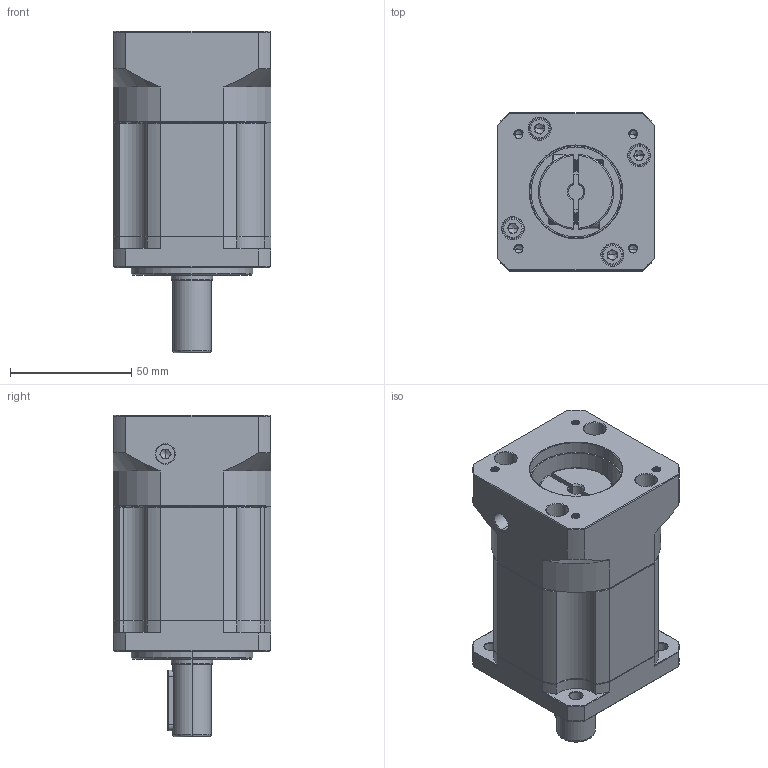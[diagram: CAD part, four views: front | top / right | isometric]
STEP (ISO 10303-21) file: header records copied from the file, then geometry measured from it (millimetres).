
FILE_DESCRIPTION (( 'STEP AP214' ), '1' );
FILE_NAME ('ZB060-D16-L2-P2-6.35-38.1-47.14X47.14-M4.step', '2023-08-16T07:06:47', ( '' ), ( '' ), 'SwSTEP 2.0', 'SolidWorks 2016', '' );
FILE_SCHEMA (( 'AUTOMOTIVE_DESIGN' ));
Length unit declared in the file: millimetre
Products named in the file (1): ZB060-D16-L2-P2-6.35-38.1-47.14X47.14-M4
Bounding box: 65 x 65 x 132.5 mm (x, y, z)
Volume: 336126.5 mm3; surface area: 58497.2 mm2
Topology: 6 solids, 6 shells, 2154 faces, 5800 edges, 3734 vertices
Faces by surface type: plane 1059, bspline 397, cylinder 381, cone 283, torus 34
Entity records: 114844 total; most frequent: CARTESIAN_POINT 40229, ORIENTED_EDGE 11540, DIRECTION 9090, EDGE_CURVE 5770, VERTEX_POINT 3734, VECTOR 3636, LINE 3636, AXIS2_PLACEMENT_3D 2727
